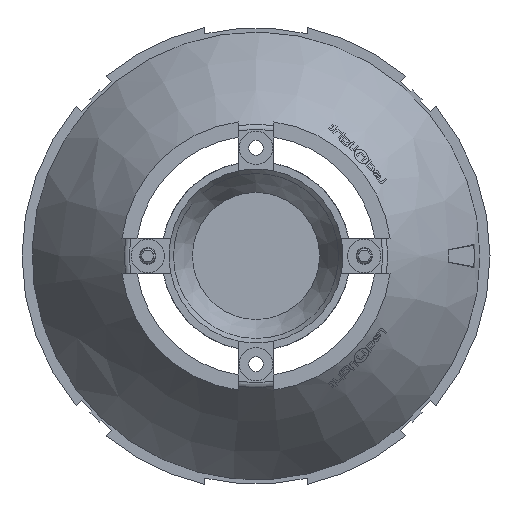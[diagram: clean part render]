
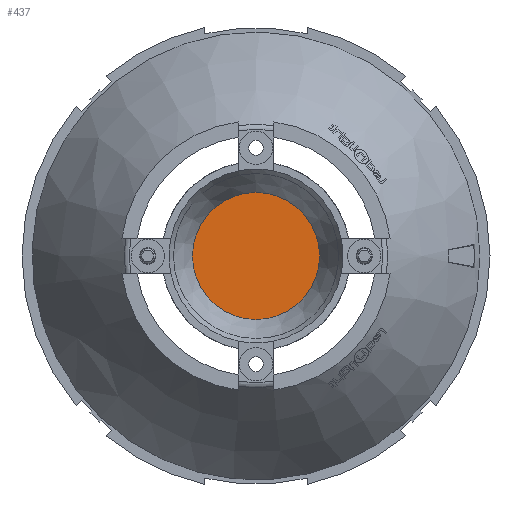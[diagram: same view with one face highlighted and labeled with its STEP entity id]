
A CAD part, front view. The second image highlights one B-rep face of the part: STEP entity #437.
In plain terms, the highlighted planar face has unit normal (0, -1, 0).
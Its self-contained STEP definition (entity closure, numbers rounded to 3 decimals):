
#437=ADVANCED_FACE('',(#1251),#1252,.T.);
#1251=FACE_OUTER_BOUND('',#3115,.T.);
#1252=PLANE('',#3116);
#3115=EDGE_LOOP('',(#6847));
#3116=AXIS2_PLACEMENT_3D('',#6848,#6849,#6850);
#6847=ORIENTED_EDGE('',*,*,#8046,.T.);
#6848=CARTESIAN_POINT('',(0.0,7.0,0.0));
#6849=DIRECTION('',(0.0,-1.0,0.0));
#6850=DIRECTION('',(0.0,0.0,-1.0));
#8046=EDGE_CURVE('',#9685,#9685,#9686,.T.);
#9685=VERTEX_POINT('',#14018);
#9686=CIRCLE('',#14019,9.5);
#14018=CARTESIAN_POINT('',(0.0,7.0,-9.5));
#14019=AXIS2_PLACEMENT_3D('',#14748,#14749,#14750);
#14748=CARTESIAN_POINT('',(0.0,7.0,0.0));
#14749=DIRECTION('',(0.0,-1.0,0.0));
#14750=DIRECTION('',(0.0,0.0,-1.0));
